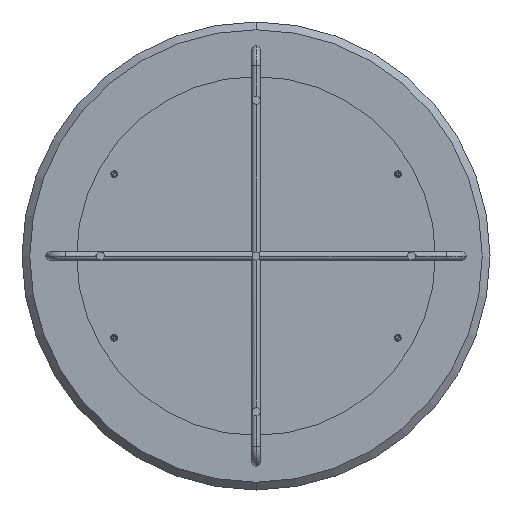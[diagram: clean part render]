
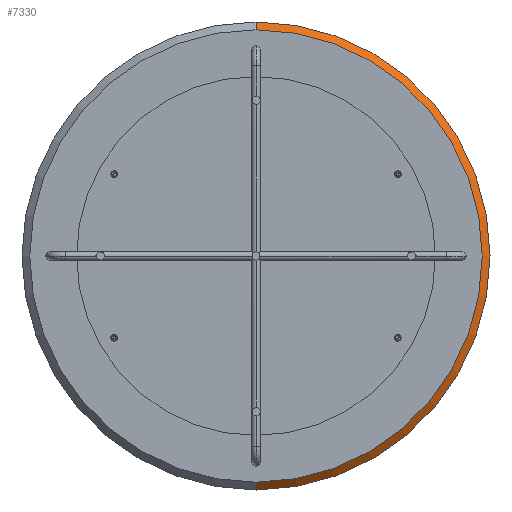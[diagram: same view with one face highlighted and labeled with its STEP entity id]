
A CAD part, front view. The second image highlights one B-rep face of the part: STEP entity #7330.
In plain terms, the highlighted conical face has half-angle 45 degrees and reference radius 450 mm.
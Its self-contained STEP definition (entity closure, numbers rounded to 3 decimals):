
#169 = VERTEX_POINT ( 'NONE', #9156 ) ;
#287 = LINE ( 'NONE', #12743, #7216 ) ;
#311 = DIRECTION ( 'NONE',  ( 0., 1., 0. ) ) ;
#418 = VECTOR ( 'NONE', #10598, 1000. ) ;
#685 = ORIENTED_EDGE ( 'NONE', *, *, #6822, .T. ) ;
#1270 = CONICAL_SURFACE ( 'NONE', #11493, 450., 0.785 ) ;
#2386 = CARTESIAN_POINT ( 'NONE',  ( 0., 0., 0. ) ) ;
#2409 = CARTESIAN_POINT ( 'NONE',  ( 0., 0., 435. ) ) ;
#2829 = ORIENTED_EDGE ( 'NONE', *, *, #11032, .F. ) ;
#3192 = DIRECTION ( 'NONE',  ( 0., 0., 1. ) ) ;
#3457 = CARTESIAN_POINT ( 'NONE',  ( 0., 15., -450. ) ) ;
#4364 = DIRECTION ( 'NONE',  ( 0., 0.707, 0.707 ) ) ;
#5248 = CARTESIAN_POINT ( 'NONE',  ( 0., 15., 0. ) ) ;
#5262 = DIRECTION ( 'NONE',  ( 0., 0., 1. ) ) ;
#6172 = VERTEX_POINT ( 'NONE', #12391 ) ;
#6278 = CARTESIAN_POINT ( 'NONE',  ( 0., 15., 0. ) ) ;
#6534 = VERTEX_POINT ( 'NONE', #8868 ) ;
#6822 = EDGE_CURVE ( 'NONE', #169, #6172, #12591, .T. ) ;
#6887 = EDGE_CURVE ( 'NONE', #6534, #6172, #7669, .T. ) ;
#7195 = ORIENTED_EDGE ( 'NONE', *, *, #6887, .F. ) ;
#7216 = VECTOR ( 'NONE', #4364, 1000. ) ;
#7330 = ADVANCED_FACE ( 'NONE', ( #9310 ), #1270, .T. ) ;
#7434 = CIRCLE ( 'NONE', #10840, 435. ) ;
#7669 = CIRCLE ( 'NONE', #12129, 450. ) ;
#8394 = DIRECTION ( 'NONE',  ( 0., 1., 0. ) ) ;
#8868 = CARTESIAN_POINT ( 'NONE',  ( 0., 15., 450. ) ) ;
#9156 = CARTESIAN_POINT ( 'NONE',  ( 0., 0., -435. ) ) ;
#9236 = EDGE_LOOP ( 'NONE', ( #10366, #685, #7195, #2829 ) ) ;
#9310 = FACE_OUTER_BOUND ( 'NONE', #9236, .T. ) ;
#10366 = ORIENTED_EDGE ( 'NONE', *, *, #11921, .F. ) ;
#10520 = DIRECTION ( 'NONE',  ( 0., 0., 1. ) ) ;
#10580 = VERTEX_POINT ( 'NONE', #2409 ) ;
#10598 = DIRECTION ( 'NONE',  ( 0., 0.707, -0.707 ) ) ;
#10840 = AXIS2_PLACEMENT_3D ( 'NONE', #2386, #12449, #10520 ) ;
#11032 = EDGE_CURVE ( 'NONE', #10580, #6534, #287, .T. ) ;
#11493 = AXIS2_PLACEMENT_3D ( 'NONE', #5248, #311, #3192 ) ;
#11921 = EDGE_CURVE ( 'NONE', #169, #10580, #7434, .T. ) ;
#12129 = AXIS2_PLACEMENT_3D ( 'NONE', #6278, #8394, #5262 ) ;
#12391 = CARTESIAN_POINT ( 'NONE',  ( 0., 15., -450. ) ) ;
#12449 = DIRECTION ( 'NONE',  ( 0., -1., 0. ) ) ;
#12591 = LINE ( 'NONE', #3457, #418 ) ;
#12743 = CARTESIAN_POINT ( 'NONE',  ( 0., 15., 450. ) ) ;
